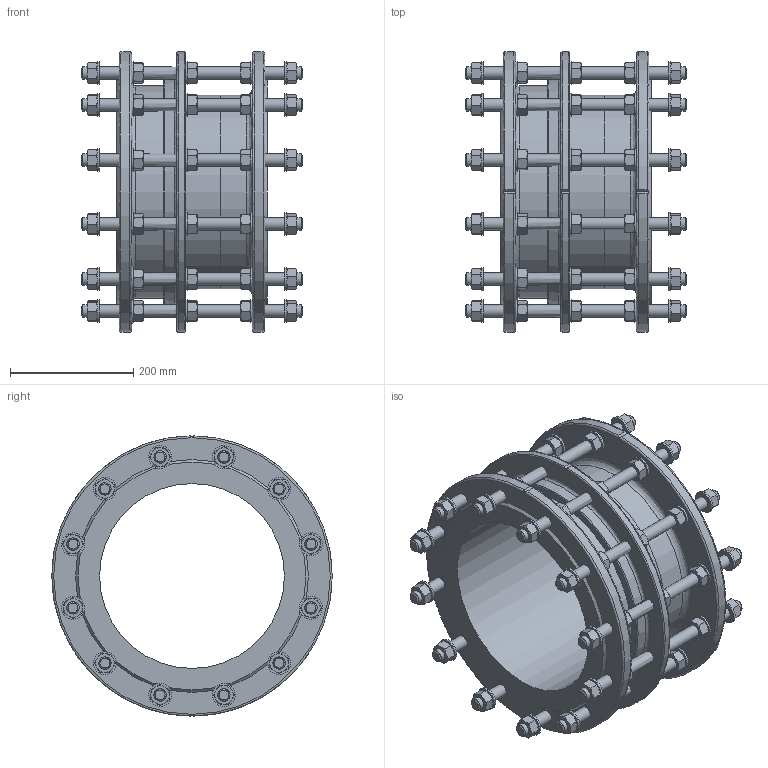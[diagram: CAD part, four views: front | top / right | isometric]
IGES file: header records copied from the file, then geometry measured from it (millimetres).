
Start section: SolidWorks IGES file using analytic representation for surfaces
Global section: file name: \\avksan2\techshare\PBM outline export from Enovia\O_265_911_DN300_0XXXXX01_L=245_REV01.igs; native system: SolidWorks 2022; preprocessor: SolidWorks 2022; author: pbm; date: 241212.085923; units: millimetre
Bounding box: 360 x 455 x 454.96 mm (x, y, z)
Surface area: 1271330.3 mm2 (no closed solid volume)
Topology: 0 solids, 0 shells, 1498 faces, 6373 edges, 6203 vertices
Faces by surface type: revolution 906, bspline 592
